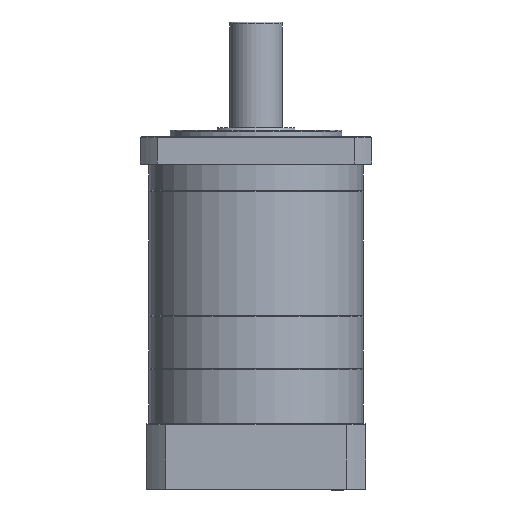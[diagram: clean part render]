
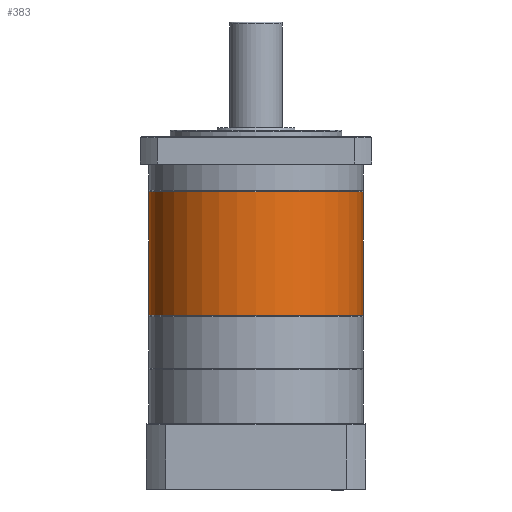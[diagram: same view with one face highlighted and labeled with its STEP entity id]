
A CAD part, front view. The second image highlights one B-rep face of the part: STEP entity #383.
In plain terms, the highlighted cylindrical face has radius 81 mm (diameter 162 mm), a partial arc.
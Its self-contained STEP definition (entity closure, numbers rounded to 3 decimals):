
#383 = ADVANCED_FACE ( 'NONE', ( #14819 ), #37777, .T. ) ;
#7211 = EDGE_LOOP ( 'NONE', ( #41138, #85280, #52928, #34371 ) ) ;
#9097 = DIRECTION ( 'NONE',  ( 1., 0., 0. ) ) ;
#13535 = CIRCLE ( 'NONE', #29636, 81. ) ;
#13630 = DIRECTION ( 'NONE',  ( 0., 0., 1. ) ) ;
#14819 = FACE_OUTER_BOUND ( 'NONE', #7211, .T. ) ;
#14844 = VERTEX_POINT ( 'NONE', #77701 ) ;
#15117 = DIRECTION ( 'NONE',  ( 0., 0., -1. ) ) ;
#15771 = CARTESIAN_POINT ( 'NONE',  ( 174.125, 67.755, 162.063 ) ) ;
#17479 = CARTESIAN_POINT ( 'NONE',  ( 93.125, 67.755, 68.563 ) ) ;
#22795 = DIRECTION ( 'NONE',  ( 1., 0., 0. ) ) ;
#29636 = AXIS2_PLACEMENT_3D ( 'NONE', #31016, #70708, #9097 ) ;
#30073 = EDGE_CURVE ( 'NONE', #79749, #14844, #72482, .T. ) ;
#31016 = CARTESIAN_POINT ( 'NONE',  ( 174.125, 67.755, 68.563 ) ) ;
#32450 = VECTOR ( 'NONE', #13630, 1000. ) ;
#33419 = AXIS2_PLACEMENT_3D ( 'NONE', #49472, #95152, #55667 ) ;
#34371 = ORIENTED_EDGE ( 'NONE', *, *, #40627, .T. ) ;
#36770 = CARTESIAN_POINT ( 'NONE',  ( 93.125, 67.755, 162.063 ) ) ;
#37777 = CYLINDRICAL_SURFACE ( 'NONE', #33419, 81. ) ;
#40627 = EDGE_CURVE ( 'NONE', #14844, #82120, #79820, .T. ) ;
#40941 = EDGE_CURVE ( 'NONE', #86579, #82120, #94218, .T. ) ;
#41138 = ORIENTED_EDGE ( 'NONE', *, *, #40941, .F. ) ;
#42730 = DIRECTION ( 'NONE',  ( 0., 0., 1. ) ) ;
#48972 = EDGE_CURVE ( 'NONE', #86579, #79749, #13535, .T. ) ;
#49472 = CARTESIAN_POINT ( 'NONE',  ( 174.125, 67.755, 68.063 ) ) ;
#51824 = VECTOR ( 'NONE', #42730, 1000. ) ;
#52928 = ORIENTED_EDGE ( 'NONE', *, *, #30073, .T. ) ;
#55667 = DIRECTION ( 'NONE',  ( 1., 0., 0. ) ) ;
#59972 = CARTESIAN_POINT ( 'NONE',  ( 93.125, 67.755, 68.063 ) ) ;
#70708 = DIRECTION ( 'NONE',  ( 0., 0., 1. ) ) ;
#72482 = LINE ( 'NONE', #90061, #51824 ) ;
#72882 = CARTESIAN_POINT ( 'NONE',  ( 255.125, 67.755, 68.563 ) ) ;
#76716 = AXIS2_PLACEMENT_3D ( 'NONE', #15771, #15117, #22795 ) ;
#77701 = CARTESIAN_POINT ( 'NONE',  ( 255.125, 67.755, 162.063 ) ) ;
#79749 = VERTEX_POINT ( 'NONE', #72882 ) ;
#79820 = CIRCLE ( 'NONE', #76716, 81. ) ;
#82120 = VERTEX_POINT ( 'NONE', #36770 ) ;
#85280 = ORIENTED_EDGE ( 'NONE', *, *, #48972, .T. ) ;
#86579 = VERTEX_POINT ( 'NONE', #17479 ) ;
#90061 = CARTESIAN_POINT ( 'NONE',  ( 255.125, 67.755, 68.063 ) ) ;
#94218 = LINE ( 'NONE', #59972, #32450 ) ;
#95152 = DIRECTION ( 'NONE',  ( 0., 0., 1. ) ) ;
